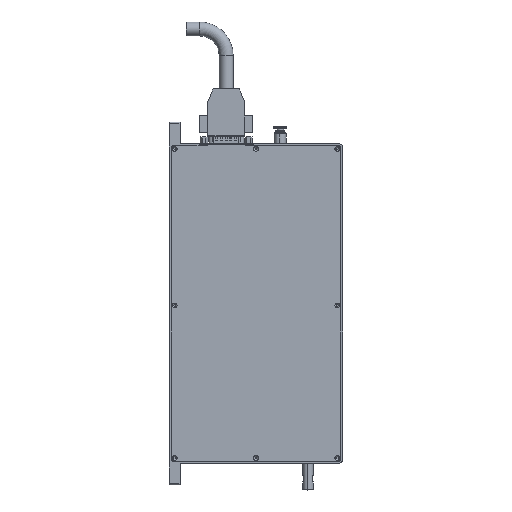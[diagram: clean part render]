
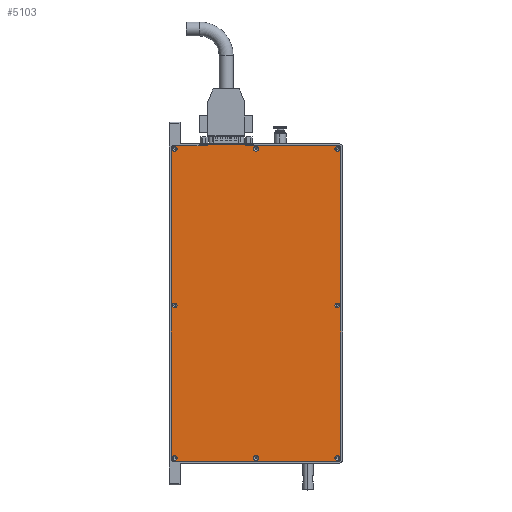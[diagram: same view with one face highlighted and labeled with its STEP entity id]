
A CAD part, top view. The second image highlights one B-rep face of the part: STEP entity #5103.
In plain terms, the highlighted planar face has unit normal (0, 0, 1).
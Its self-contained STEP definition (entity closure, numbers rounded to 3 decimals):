
#3904=DIRECTION('',(-1.,0.,0.));
#3905=VECTOR('',#3904,124.);
#3906=CARTESIAN_POINT('',(62.,-118.5,1.));
#3907=LINE('',#3906,#3905);
#4120=DIRECTION('',(0.,-1.,0.));
#4121=VECTOR('',#4120,234.);
#4122=CARTESIAN_POINT('',(63.5,117.,1.));
#4123=LINE('',#4122,#4121);
#4127=CARTESIAN_POINT('',(-62.,-117.,1.));
#4128=DIRECTION('',(0.,0.,1.));
#4129=DIRECTION('',(-1.,0.,0.));
#4130=AXIS2_PLACEMENT_3D('',#4127,#4128,#4129);
#4135=CARTESIAN_POINT('',(-62.,117.,1.));
#4136=DIRECTION('',(0.,0.,1.));
#4137=DIRECTION('',(0.,1.,0.));
#4138=AXIS2_PLACEMENT_3D('',#4135,#4136,#4137);
#4143=DIRECTION('',(-1.,0.,0.));
#4144=VECTOR('',#4143,28.518);
#4145=CARTESIAN_POINT('',(-8.082,119.,1.));
#4146=LINE('',#4145,#4144);
#4150=DIRECTION('',(0.,1.,0.));
#4151=VECTOR('',#4150,0.5);
#4152=CARTESIAN_POINT('',(-8.082,118.5,1.));
#4153=LINE('',#4152,#4151);
#4157=CARTESIAN_POINT('',(62.,117.,1.));
#4158=DIRECTION('',(0.,0.,1.));
#4159=DIRECTION('',(1.,0.,0.));
#4160=AXIS2_PLACEMENT_3D('',#4157,#4158,#4159);
#4165=CARTESIAN_POINT('',(62.,-117.,1.));
#4166=DIRECTION('',(0.,0.,1.));
#4167=DIRECTION('',(0.,-1.,0.));
#4168=AXIS2_PLACEMENT_3D('',#4165,#4166,#4167);
#4173=CARTESIAN_POINT('',(-61.,-1.5,1.));
#4174=DIRECTION('',(0.,0.,-1.));
#4175=DIRECTION('',(-1.,0.,0.));
#4176=AXIS2_PLACEMENT_3D('',#4173,#4174,#4175);
#4181=CARTESIAN_POINT('',(-61.,-1.5,1.));
#4182=DIRECTION('',(0.,0.,-1.));
#4183=DIRECTION('',(1.,0.,0.));
#4184=AXIS2_PLACEMENT_3D('',#4181,#4182,#4183);
#4189=CARTESIAN_POINT('',(-61.,-116.,1.));
#4190=DIRECTION('',(0.,0.,-1.));
#4191=DIRECTION('',(-1.,0.,0.));
#4192=AXIS2_PLACEMENT_3D('',#4189,#4190,#4191);
#4197=CARTESIAN_POINT('',(-61.,-116.,1.));
#4198=DIRECTION('',(0.,0.,-1.));
#4199=DIRECTION('',(1.,0.,0.));
#4200=AXIS2_PLACEMENT_3D('',#4197,#4198,#4199);
#4205=CARTESIAN_POINT('',(0.,-116.,1.));
#4206=DIRECTION('',(0.,0.,-1.));
#4207=DIRECTION('',(-1.,0.,0.));
#4208=AXIS2_PLACEMENT_3D('',#4205,#4206,#4207);
#4213=CARTESIAN_POINT('',(0.,-116.,1.));
#4214=DIRECTION('',(0.,0.,-1.));
#4215=DIRECTION('',(1.,0.,0.));
#4216=AXIS2_PLACEMENT_3D('',#4213,#4214,#4215);
#4221=CARTESIAN_POINT('',(61.,-116.,1.));
#4222=DIRECTION('',(0.,0.,-1.));
#4223=DIRECTION('',(-1.,0.,0.));
#4224=AXIS2_PLACEMENT_3D('',#4221,#4222,#4223);
#4229=CARTESIAN_POINT('',(61.,-116.,1.));
#4230=DIRECTION('',(0.,0.,-1.));
#4231=DIRECTION('',(1.,0.,0.));
#4232=AXIS2_PLACEMENT_3D('',#4229,#4230,#4231);
#4237=CARTESIAN_POINT('',(61.,-1.5,1.));
#4238=DIRECTION('',(0.,0.,-1.));
#4239=DIRECTION('',(-1.,0.,0.));
#4240=AXIS2_PLACEMENT_3D('',#4237,#4238,#4239);
#4245=CARTESIAN_POINT('',(61.,-1.5,1.));
#4246=DIRECTION('',(0.,0.,-1.));
#4247=DIRECTION('',(1.,0.,0.));
#4248=AXIS2_PLACEMENT_3D('',#4245,#4246,#4247);
#4253=CARTESIAN_POINT('',(61.,116.,1.));
#4254=DIRECTION('',(0.,0.,-1.));
#4255=DIRECTION('',(-1.,0.,0.));
#4256=AXIS2_PLACEMENT_3D('',#4253,#4254,#4255);
#4261=CARTESIAN_POINT('',(61.,116.,1.));
#4262=DIRECTION('',(0.,0.,-1.));
#4263=DIRECTION('',(1.,0.,0.));
#4264=AXIS2_PLACEMENT_3D('',#4261,#4262,#4263);
#4269=CARTESIAN_POINT('',(0.,116.,1.));
#4270=DIRECTION('',(0.,0.,-1.));
#4271=DIRECTION('',(-1.,0.,0.));
#4272=AXIS2_PLACEMENT_3D('',#4269,#4270,#4271);
#4277=CARTESIAN_POINT('',(0.,116.,1.));
#4278=DIRECTION('',(0.,0.,-1.));
#4279=DIRECTION('',(1.,0.,0.));
#4280=AXIS2_PLACEMENT_3D('',#4277,#4278,#4279);
#4285=CARTESIAN_POINT('',(-61.,116.,1.));
#4286=DIRECTION('',(0.,0.,-1.));
#4287=DIRECTION('',(-1.,0.,0.));
#4288=AXIS2_PLACEMENT_3D('',#4285,#4286,#4287);
#4293=CARTESIAN_POINT('',(-61.,116.,1.));
#4294=DIRECTION('',(0.,0.,-1.));
#4295=DIRECTION('',(1.,0.,0.));
#4296=AXIS2_PLACEMENT_3D('',#4293,#4294,#4295);
#4315=DIRECTION('',(0.,1.,0.));
#4316=VECTOR('',#4315,234.);
#4317=CARTESIAN_POINT('',(-63.5,-117.,1.));
#4318=LINE('',#4317,#4316);
#4343=DIRECTION('',(1.,0.,0.));
#4344=VECTOR('',#4343,25.4);
#4345=CARTESIAN_POINT('',(-62.,118.5,1.));
#4346=LINE('',#4345,#4344);
#4357=DIRECTION('',(0.,1.,0.));
#4358=VECTOR('',#4357,0.5);
#4359=CARTESIAN_POINT('',(-36.6,118.5,1.));
#4360=LINE('',#4359,#4358);
#4378=DIRECTION('',(1.,0.,0.));
#4379=VECTOR('',#4378,70.082);
#4380=CARTESIAN_POINT('',(-8.082,118.5,1.));
#4381=LINE('',#4380,#4379);
#4780=CARTESIAN_POINT('',(59.2,116.,1.));
#4782=VERTEX_POINT('',#4780);
#4784=CARTESIAN_POINT('',(-62.,118.5,1.));
#4785=CARTESIAN_POINT('',(-63.5,117.,1.));
#4786=VERTEX_POINT('',#4784);
#4787=VERTEX_POINT('',#4785);
#4788=CARTESIAN_POINT('',(-8.082,118.5,1.));
#4789=CARTESIAN_POINT('',(62.,118.5,1.));
#4790=VERTEX_POINT('',#4788);
#4791=VERTEX_POINT('',#4789);
#4794=CARTESIAN_POINT('',(62.8,-1.5,1.));
#4796=VERTEX_POINT('',#4794);
#4798=CARTESIAN_POINT('',(62.8,116.,1.));
#4800=VERTEX_POINT('',#4798);
#4814=CARTESIAN_POINT('',(-62.8,-1.5,1.));
#4815=CARTESIAN_POINT('',(-59.2,-1.5,1.));
#4816=VERTEX_POINT('',#4814);
#4817=VERTEX_POINT('',#4815);
#4818=CARTESIAN_POINT('',(-63.5,-117.,1.));
#4819=VERTEX_POINT('',#4818);
#4832=CARTESIAN_POINT('',(-8.082,119.,1.));
#4833=VERTEX_POINT('',#4832);
#4844=CARTESIAN_POINT('',(-1.8,116.,1.));
#4845=VERTEX_POINT('',#4844);
#4850=CARTESIAN_POINT('',(1.8,116.,1.));
#4851=VERTEX_POINT('',#4850);
#4852=CARTESIAN_POINT('',(-1.8,-116.,1.));
#4853=CARTESIAN_POINT('',(1.8,-116.,1.));
#4854=VERTEX_POINT('',#4852);
#4855=VERTEX_POINT('',#4853);
#4862=CARTESIAN_POINT('',(-59.2,116.,1.));
#4864=VERTEX_POINT('',#4862);
#4872=CARTESIAN_POINT('',(-59.2,-116.,1.));
#4873=CARTESIAN_POINT('',(-62.8,-116.,1.));
#4874=VERTEX_POINT('',#4872);
#4875=VERTEX_POINT('',#4873);
#4882=CARTESIAN_POINT('',(-62.8,116.,1.));
#4883=VERTEX_POINT('',#4882);
#4884=CARTESIAN_POINT('',(-36.6,119.,1.));
#4885=VERTEX_POINT('',#4884);
#4892=CARTESIAN_POINT('',(62.8,-116.,1.));
#4893=CARTESIAN_POINT('',(59.2,-116.,1.));
#4894=VERTEX_POINT('',#4892);
#4895=VERTEX_POINT('',#4893);
#4900=CARTESIAN_POINT('',(63.5,117.,1.));
#4902=VERTEX_POINT('',#4900);
#4906=CARTESIAN_POINT('',(-62.,-118.5,1.));
#4907=VERTEX_POINT('',#4906);
#4908=CARTESIAN_POINT('',(59.2,-1.5,1.));
#4909=VERTEX_POINT('',#4908);
#4910=CARTESIAN_POINT('',(63.5,-117.,1.));
#4911=VERTEX_POINT('',#4910);
#4912=CARTESIAN_POINT('',(-36.6,118.5,1.));
#4913=VERTEX_POINT('',#4912);
#4914=CARTESIAN_POINT('',(62.,-118.5,1.));
#4915=VERTEX_POINT('',#4914);
#5026=CARTESIAN_POINT('',(0.,0.,1.));
#5027=DIRECTION('',(0.,0.,-1.));
#5028=DIRECTION('',(-1.,0.,0.));
#5029=AXIS2_PLACEMENT_3D('',#5026,#5027,#5028);
#5030=PLANE('',#5029);
#5031=ORIENTED_EDGE('',*,*,#4925,.T.);
#5033=ORIENTED_EDGE('',*,*,#5032,.F.);
#5035=ORIENTED_EDGE('',*,*,#5034,.T.);
#5037=ORIENTED_EDGE('',*,*,#5036,.F.);
#5039=ORIENTED_EDGE('',*,*,#5038,.T.);
#5041=ORIENTED_EDGE('',*,*,#5040,.T.);
#5043=ORIENTED_EDGE('',*,*,#5042,.F.);
#5045=ORIENTED_EDGE('',*,*,#5044,.F.);
#5047=ORIENTED_EDGE('',*,*,#5046,.T.);
#5049=ORIENTED_EDGE('',*,*,#5048,.F.);
#5050=ORIENTED_EDGE('',*,*,#5016,.T.);
#5052=ORIENTED_EDGE('',*,*,#5051,.F.);
#5053=EDGE_LOOP('',(#5031,#5033,#5035,#5037,#5039,#5041,#5043,#5045,#5047,#5049,
#5050,#5052));
#5054=FACE_OUTER_BOUND('',#5053,.F.);
#5056=ORIENTED_EDGE('',*,*,#5055,.F.);
#5058=ORIENTED_EDGE('',*,*,#5057,.F.);
#5059=EDGE_LOOP('',(#5056,#5058));
#5060=FACE_BOUND('',#5059,.F.);
#5062=ORIENTED_EDGE('',*,*,#5061,.F.);
#5064=ORIENTED_EDGE('',*,*,#5063,.F.);
#5065=EDGE_LOOP('',(#5062,#5064));
#5066=FACE_BOUND('',#5065,.F.);
#5068=ORIENTED_EDGE('',*,*,#5067,.F.);
#5070=ORIENTED_EDGE('',*,*,#5069,.F.);
#5071=EDGE_LOOP('',(#5068,#5070));
#5072=FACE_BOUND('',#5071,.F.);
#5074=ORIENTED_EDGE('',*,*,#5073,.F.);
#5076=ORIENTED_EDGE('',*,*,#5075,.F.);
#5077=EDGE_LOOP('',(#5074,#5076));
#5078=FACE_BOUND('',#5077,.F.);
#5080=ORIENTED_EDGE('',*,*,#5079,.F.);
#5082=ORIENTED_EDGE('',*,*,#5081,.F.);
#5083=EDGE_LOOP('',(#5080,#5082));
#5084=FACE_BOUND('',#5083,.F.);
#5086=ORIENTED_EDGE('',*,*,#5085,.F.);
#5088=ORIENTED_EDGE('',*,*,#5087,.F.);
#5089=EDGE_LOOP('',(#5086,#5088));
#5090=FACE_BOUND('',#5089,.F.);
#5092=ORIENTED_EDGE('',*,*,#5091,.F.);
#5094=ORIENTED_EDGE('',*,*,#5093,.F.);
#5095=EDGE_LOOP('',(#5092,#5094));
#5096=FACE_BOUND('',#5095,.F.);
#5098=ORIENTED_EDGE('',*,*,#5097,.F.);
#5100=ORIENTED_EDGE('',*,*,#5099,.F.);
#5101=EDGE_LOOP('',(#5098,#5100));
#5102=FACE_BOUND('',#5101,.F.);
#4131=CIRCLE('',#4130,1.5);
#4139=CIRCLE('',#4138,1.5);
#4161=CIRCLE('',#4160,1.5);
#4169=CIRCLE('',#4168,1.5);
#4177=CIRCLE('',#4176,1.8);
#4185=CIRCLE('',#4184,1.8);
#4193=CIRCLE('',#4192,1.8);
#4201=CIRCLE('',#4200,1.8);
#4209=CIRCLE('',#4208,1.8);
#4217=CIRCLE('',#4216,1.8);
#4225=CIRCLE('',#4224,1.8);
#4233=CIRCLE('',#4232,1.8);
#4241=CIRCLE('',#4240,1.8);
#4249=CIRCLE('',#4248,1.8);
#4257=CIRCLE('',#4256,1.8);
#4265=CIRCLE('',#4264,1.8);
#4273=CIRCLE('',#4272,1.8);
#4281=CIRCLE('',#4280,1.8);
#4289=CIRCLE('',#4288,1.8);
#4297=CIRCLE('',#4296,1.8);
#4925=EDGE_CURVE('',#4915,#4907,#3907,.T.);
#5016=EDGE_CURVE('',#4902,#4911,#4123,.T.);
#5032=EDGE_CURVE('',#4819,#4907,#4131,.T.);
#5034=EDGE_CURVE('',#4819,#4787,#4318,.T.);
#5036=EDGE_CURVE('',#4786,#4787,#4139,.T.);
#5038=EDGE_CURVE('',#4786,#4913,#4346,.T.);
#5040=EDGE_CURVE('',#4913,#4885,#4360,.T.);
#5042=EDGE_CURVE('',#4833,#4885,#4146,.T.);
#5044=EDGE_CURVE('',#4790,#4833,#4153,.T.);
#5046=EDGE_CURVE('',#4790,#4791,#4381,.T.);
#5048=EDGE_CURVE('',#4902,#4791,#4161,.T.);
#5051=EDGE_CURVE('',#4915,#4911,#4169,.T.);
#5055=EDGE_CURVE('',#4816,#4817,#4177,.T.);
#5057=EDGE_CURVE('',#4817,#4816,#4185,.T.);
#5061=EDGE_CURVE('',#4875,#4874,#4193,.T.);
#5063=EDGE_CURVE('',#4874,#4875,#4201,.T.);
#5067=EDGE_CURVE('',#4854,#4855,#4209,.T.);
#5069=EDGE_CURVE('',#4855,#4854,#4217,.T.);
#5073=EDGE_CURVE('',#4895,#4894,#4225,.T.);
#5075=EDGE_CURVE('',#4894,#4895,#4233,.T.);
#5079=EDGE_CURVE('',#4909,#4796,#4241,.T.);
#5081=EDGE_CURVE('',#4796,#4909,#4249,.T.);
#5085=EDGE_CURVE('',#4782,#4800,#4257,.T.);
#5087=EDGE_CURVE('',#4800,#4782,#4265,.T.);
#5091=EDGE_CURVE('',#4845,#4851,#4273,.T.);
#5093=EDGE_CURVE('',#4851,#4845,#4281,.T.);
#5097=EDGE_CURVE('',#4883,#4864,#4289,.T.);
#5099=EDGE_CURVE('',#4864,#4883,#4297,.T.);
#5103=ADVANCED_FACE('',(#5054,#5060,#5066,#5072,#5078,#5084,#5090,#5096,#5102),
#5030,.F.);
